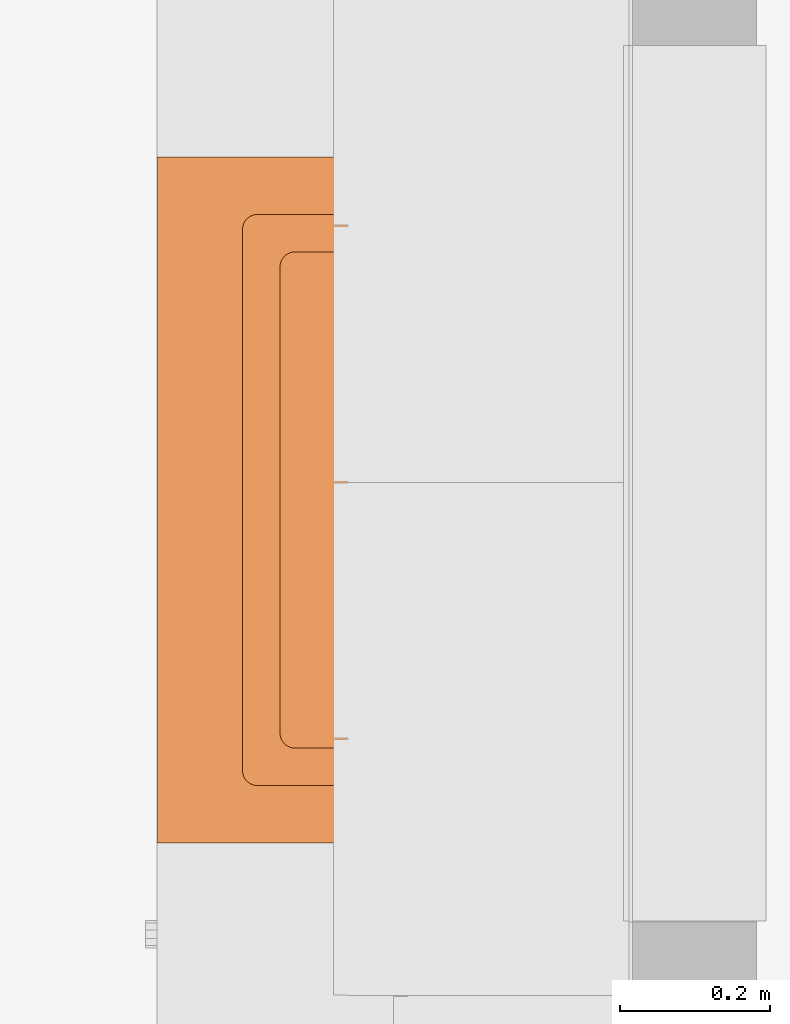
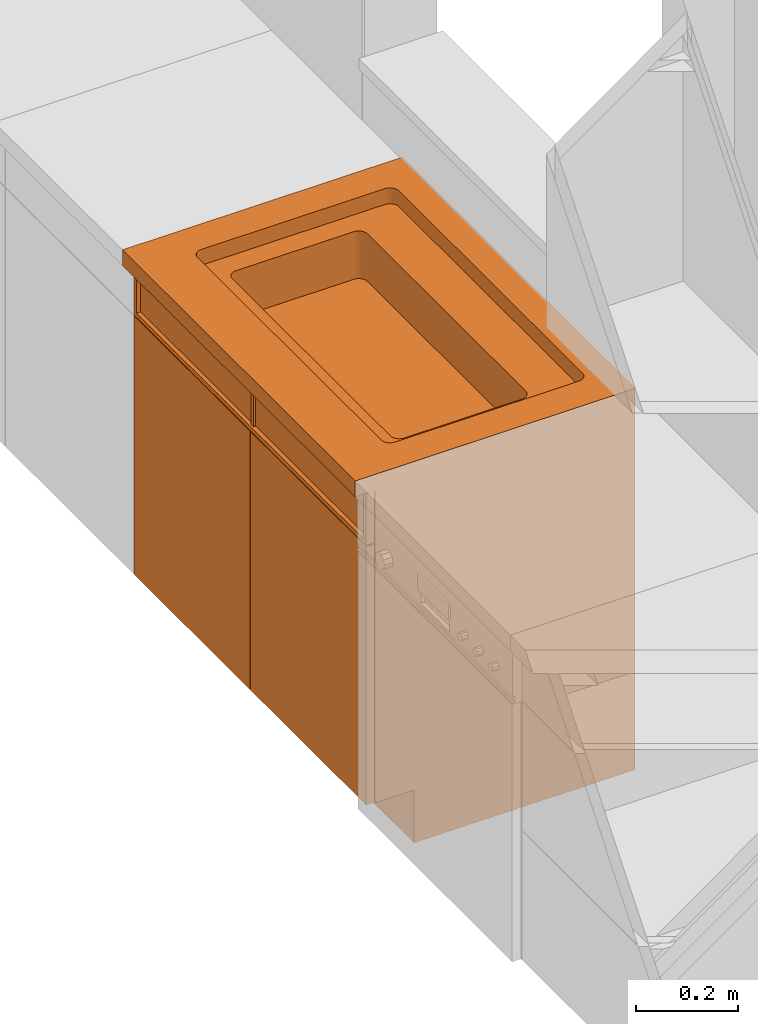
# One storey, part 64 of 77: 1 proxy.
"""IFC2X3 building model written with IfcOpenShell, lengths in inches."""

from ifc_helpers import new_model, entity, si_unit, converted_unit, derived_unit, money_unit, direction, frame, origin_with_axes, place, context, subcontext, project, spatial, open_shell, faceted_brep, surface_model, type_object, element, save


model = new_model("IFC2X3")

# Units and contexts
model_context = context("Model", 3, precision=0.000393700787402, world=origin_with_axes(), true_north=direction((0.0, 1.0)))
body_context = subcontext(model_context, "Body", "Model", "MODEL_VIEW")
ifc_project = project(units=[converted_unit("LENGTHUNIT", "INCH", entity("IfcPositiveLengthMeasure", 0.0254), si_unit("LENGTHUNIT", "METRE"), dimensions=[1, 0, 0, 0, 0, 0, 0]), converted_unit("AREAUNIT", "SQUARE_FOOT", entity("IfcPositiveLengthMeasure", 0.09290304), si_unit("AREAUNIT", "SQUARE_METRE"), dimensions=[2, 0, 0, 0, 0, 0, 0]), si_unit("PLANEANGLEUNIT", "RADIAN"), si_unit("SOLIDANGLEUNIT", "STERADIAN"), money_unit("USD"), converted_unit("TIMEUNIT", "Year", entity("IfcTimeMeasure", 31556926.0), si_unit("TIMEUNIT", "SECOND"), dimensions=[0, 0, 1, 0, 0, 0, 0]), si_unit("MASSUNIT", "GRAM", prefix="KILO"), si_unit("THERMODYNAMICTEMPERATUREUNIT", "DEGREE_CELSIUS"), si_unit("LUMINOUSINTENSITYUNIT", "LUMEN"), si_unit("ENERGYUNIT", "JOULE", prefix="MEGA"), derived_unit("THERMALCONDUCTANCEUNIT", [(si_unit("POWERUNIT", "WATT"), 1), (si_unit("LENGTHUNIT", "METRE"), -1), (si_unit("THERMODYNAMICTEMPERATUREUNIT", "KELVIN"), -1)]), derived_unit("SPECIFICHEATCAPACITYUNIT", [(si_unit("ENERGYUNIT", "JOULE"), 1), (si_unit("MASSUNIT", "GRAM", prefix="KILO"), -1), (si_unit("THERMODYNAMICTEMPERATUREUNIT", "KELVIN"), -1)]), derived_unit("MASSDENSITYUNIT", [(si_unit("MASSUNIT", "GRAM", prefix="KILO"), 1), (si_unit("VOLUMEUNIT", "CUBIC_METRE"), -1)])], contexts=[model_context])

# Site, building, storey
site_placement = place(None, origin_with_axes())
site = spatial("IfcSite", under=ifc_project, at=site_placement, Name="Site", CompositionType="ELEMENT")
building_placement = place(site_placement, origin_with_axes())
building = spatial("IfcBuilding", under=site, at=building_placement, Name="Building", CompositionType="ELEMENT")
storey_placement = place(building_placement, frame((0.0, 0.0, 127.952755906), z_axis=(0.0, 0.0, 1.0), x_axis=(1.0, 0.0, 0.0)))
storey = spatial("IfcBuildingStorey", under=building, at=storey_placement, Name="Second Floor", CompositionType="ELEMENT", Elevation=127.953)

# Proxy
building_element_proxy_type = type_object("IfcBuildingElementProxyType", Name="Base Cabinet Block 25", PredefinedType="NOTDEFINED")
proxy_placement = place(storey_placement, frame((637.474370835, 290.025282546, 0.0), z_axis=(0.0, 0.0, 1.0), x_axis=(0.0, -1.0, 0.0)))
element("IfcBuildingElementProxy", 1, at=proxy_placement, inside=storey, type_object=building_element_proxy_type, Name="OBJ-16", context=body_context, shape_type="SurfaceModel", body=[
    surface_model("IfcShellBasedSurfaceModel", [(5.76771653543, -18.5255905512, 30.0236220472), (30.2559055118, -18.5255905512, 30.0236220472), (30.2559055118, -18.5255905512, 34.3267716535), (5.76771653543, -18.5255905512, 34.3267716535), (5.63098568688, -18.513628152, 30.0236220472), (5.49840933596, -18.4781044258, 30.0236220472), (5.37401574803, -18.4200987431, 30.0236220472), (5.2615845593, -18.3413735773, 30.0236220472), (5.16453193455, -18.2443209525, 30.0236220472), (5.08580676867, -18.1318897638, 30.0236220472), (5.027801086, -18.0074961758, 30.0236220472), (4.99227735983, -17.8749198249, 30.0236220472), (4.98031496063, -17.7381889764, 30.0236220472), (4.98031496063, -7.21850393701, 30.0236220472), (4.99227735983, -7.08177308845, 30.0236220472), (5.027801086, -6.94919673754, 30.0236220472), (5.08580676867, -6.82480314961, 30.0236220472), (5.16453193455, -6.71237196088, 30.0236220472), (5.2615845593, -6.61531933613, 30.0236220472), (5.37401574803, -6.53659417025, 30.0236220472), (5.49840933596, -6.47858848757, 30.0236220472), (5.63098568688, -6.44306476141, 30.0236220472), (5.76771653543, -6.4311023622, 30.0236220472), (30.2559055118, -6.4311023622, 30.0236220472), (30.3926363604, -6.44306476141, 30.0236220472), (30.5252127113, -6.47858848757, 30.0236220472), (30.6496062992, -6.53659417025, 30.0236220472), (30.7620374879, -6.61531933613, 30.0236220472), (30.8590901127, -6.71237196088, 30.0236220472), (30.9378152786, -6.82480314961, 30.0236220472), (30.9958209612, -6.94919673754, 30.0236220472), (31.0313446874, -7.08177308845, 30.0236220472), (31.0433070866, -7.21850393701, 30.0236220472), (31.0433070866, -17.7381889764, 30.0236220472), (31.0313446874, -17.8749198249, 30.0236220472), (30.9958209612, -18.0074961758, 30.0236220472), (30.9378152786, -18.1318897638, 30.0236220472), (30.8590901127, -18.2443209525, 30.0236220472), (30.7620374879, -18.3413735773, 30.0236220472), (30.6496062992, -18.4200987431, 30.0236220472), (30.5252127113, -18.4781044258, 30.0236220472), (30.3926363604, -18.513628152, 30.0236220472), (30.3926363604, -18.513628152, 34.3267716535), (5.63098568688, -18.513628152, 34.3267716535), (5.49840933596, -18.4781044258, 34.3267716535), (5.37401574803, -18.4200987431, 34.3267716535), (5.2615845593, -18.3413735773, 34.3267716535), (5.16453193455, -18.2443209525, 34.3267716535), (5.08580676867, -18.1318897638, 34.3267716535), (5.027801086, -18.0074961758, 34.3267716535), (4.99227735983, -17.8749198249, 34.3267716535), (4.98031496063, -17.7381889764, 34.3267716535), (4.98031496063, -7.21850393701, 34.3267716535), (4.99227735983, -7.08177308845, 34.3267716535), (5.027801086, -6.94919673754, 34.3267716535), (5.08580676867, -6.82480314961, 34.3267716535), (5.16453193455, -6.71237196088, 34.3267716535), (5.2615845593, -6.61531933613, 34.3267716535), (5.37401574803, -6.53659417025, 34.3267716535), (5.49840933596, -6.47858848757, 34.3267716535), (5.63098568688, -6.44306476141, 34.3267716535), (5.76771653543, -6.4311023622, 34.3267716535), (30.2559055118, -6.4311023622, 34.3267716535), (30.3926363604, -6.44306476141, 34.3267716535), (30.5252127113, -6.47858848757, 34.3267716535), (30.6496062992, -6.53659417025, 34.3267716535), (30.7620374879, -6.61531933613, 34.3267716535), (30.8590901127, -6.71237196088, 34.3267716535), (30.9378152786, -6.82480314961, 34.3267716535), (30.9958209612, -6.94919673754, 34.3267716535), (31.0313446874, -7.08177308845, 34.3267716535), (31.0433070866, -7.21850393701, 34.3267716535), (31.0433070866, -17.7381889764, 34.3267716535), (31.0313446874, -17.8749198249, 34.3267716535), (30.9958209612, -18.0074961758, 34.3267716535), (30.9378152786, -18.1318897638, 34.3267716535), (30.8590901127, -18.2443209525, 34.3267716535), (30.7620374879, -18.3413735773, 34.3267716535), (30.6496062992, -18.4200987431, 34.3267716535), (30.5252127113, -18.4781044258, 34.3267716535)], [open_shell([[[0, 1, 2, 3]], [[0, 4, 5, 6, 7, 8, 9, 10, 11, 12, 13, 14, 15, 16, 17, 18, 19, 20, 21, 22, 23, 24, 25, 26, 27, 28, 29, 30, 31, 32, 33, 34, 35, 36, 37, 38, 39, 40, 41, 1]], [[1, 41, 42, 2]], [[4, 0, 3, 43]], [[5, 4, 43, 44]], [[6, 5, 44, 45]], [[7, 6, 45, 46]], [[8, 7, 46, 47]], [[9, 8, 47, 48]], [[10, 9, 48, 49]], [[11, 10, 49, 50]], [[12, 11, 50, 51]], [[13, 12, 51, 52]], [[14, 13, 52, 53]], [[15, 14, 53, 54]], [[16, 15, 54, 55]], [[17, 16, 55, 56]], [[18, 17, 56, 57]], [[19, 18, 57, 58]], [[20, 19, 58, 59]], [[21, 20, 59, 60]], [[22, 21, 60, 61]], [[23, 22, 61, 62]], [[24, 23, 62, 63]], [[25, 24, 63, 64]], [[26, 25, 64, 65]], [[27, 26, 65, 66]], [[28, 27, 66, 67]], [[29, 28, 67, 68]], [[30, 29, 68, 69]], [[31, 30, 69, 70]], [[32, 31, 70, 71]], [[33, 32, 71, 72]], [[34, 33, 72, 73]], [[35, 34, 73, 74]], [[36, 35, 74, 75]], [[37, 36, 75, 76]], [[38, 37, 76, 77]], [[39, 38, 77, 78]], [[40, 39, 78, 79]], [[41, 40, 79, 42]]])]),
    faceted_brep([(3.79921259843, -20.4940944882, 34.3267716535), (32.2244094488, -20.4940944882, 34.3267716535), (32.2244094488, -20.4940944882, 34.5236220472), (3.79921259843, -20.4940944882, 34.5236220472), (3.66248174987, -20.482132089, 34.3267716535), (3.52990539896, -20.4466083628, 34.3267716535), (3.40551181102, -20.3886026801, 34.3267716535), (3.29308062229, -20.3098775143, 34.3267716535), (3.19602799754, -20.2128248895, 34.3267716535), (3.11730283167, -20.1003937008, 34.3267716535), (3.05929714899, -19.9760001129, 34.3267716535), (3.02377342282, -19.8434237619, 34.3267716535), (3.01181102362, -19.7066929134, 34.3267716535), (3.01181102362, -3.28149606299, 34.3267716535), (3.02377342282, -3.14476521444, 34.3267716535), (3.05929714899, -3.01218886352, 34.3267716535), (3.11730283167, -2.88779527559, 34.3267716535), (3.19602799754, -2.77536408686, 34.3267716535), (3.29308062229, -2.67831146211, 34.3267716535), (3.40551181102, -2.59958629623, 34.3267716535), (3.52990539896, -2.54158061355, 34.3267716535), (3.66248174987, -2.50605688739, 34.3267716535), (3.79921259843, -2.49409448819, 34.3267716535), (32.2244094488, -2.49409448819, 34.3267716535), (32.3611402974, -2.50605688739, 34.3267716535), (32.4937166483, -2.54158061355, 34.3267716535), (32.6181102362, -2.59958629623, 34.3267716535), (32.7305414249, -2.67831146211, 34.3267716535), (32.8275940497, -2.77536408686, 34.3267716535), (32.9063192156, -2.88779527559, 34.3267716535), (32.9643248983, -3.01218886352, 34.3267716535), (32.9998486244, -3.14476521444, 34.3267716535), (33.0118110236, -3.28149606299, 34.3267716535), (33.0118110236, -19.7066929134, 34.3267716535), (32.9998486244, -19.8434237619, 34.3267716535), (32.9643248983, -19.9760001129, 34.3267716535), (32.9063192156, -20.1003937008, 34.3267716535), (32.8275940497, -20.2128248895, 34.3267716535), (32.7305414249, -20.3098775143, 34.3267716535), (32.6181102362, -20.3886026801, 34.3267716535), (32.4937166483, -20.4466083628, 34.3267716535), (32.3611402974, -20.482132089, 34.3267716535), (5.76771653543, -18.5255905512, 34.3267716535), (30.2559055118, -18.5255905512, 34.3267716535), (30.3926363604, -18.513628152, 34.3267716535), (30.5252127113, -18.4781044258, 34.3267716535), (30.6496062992, -18.4200987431, 34.3267716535), (30.7620374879, -18.3413735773, 34.3267716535), (30.8590901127, -18.2443209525, 34.3267716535), (30.9378152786, -18.1318897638, 34.3267716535), (30.9958209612, -18.0074961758, 34.3267716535), (31.0313446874, -17.8749198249, 34.3267716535), (31.0433070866, -17.7381889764, 34.3267716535), (31.0433070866, -7.21850393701, 34.3267716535), (31.0313446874, -7.08177308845, 34.3267716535), (30.9958209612, -6.94919673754, 34.3267716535), (30.9378152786, -6.82480314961, 34.3267716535), (30.8590901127, -6.71237196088, 34.3267716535), (30.7620374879, -6.61531933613, 34.3267716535), (30.6496062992, -6.53659417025, 34.3267716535), (30.5252127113, -6.47858848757, 34.3267716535), (30.3926363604, -6.44306476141, 34.3267716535), (30.2559055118, -6.4311023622, 34.3267716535), (5.76771653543, -6.4311023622, 34.3267716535), (5.63098568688, -6.44306476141, 34.3267716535), (5.49840933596, -6.47858848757, 34.3267716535), (5.37401574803, -6.53659417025, 34.3267716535), (5.2615845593, -6.61531933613, 34.3267716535), (5.16453193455, -6.71237196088, 34.3267716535), (5.08580676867, -6.82480314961, 34.3267716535), (5.027801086, -6.94919673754, 34.3267716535), (4.99227735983, -7.08177308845, 34.3267716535), (4.98031496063, -7.21850393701, 34.3267716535), (4.98031496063, -17.7381889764, 34.3267716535), (4.99227735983, -17.8749198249, 34.3267716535), (5.027801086, -18.0074961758, 34.3267716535), (5.08580676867, -18.1318897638, 34.3267716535), (5.16453193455, -18.2443209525, 34.3267716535), (5.2615845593, -18.3413735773, 34.3267716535), (5.37401574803, -18.4200987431, 34.3267716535), (5.49840933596, -18.4781044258, 34.3267716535), (5.63098568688, -18.513628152, 34.3267716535), (32.3611402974, -20.482132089, 34.5236220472), (32.4937166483, -20.4466083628, 34.5236220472), (32.6181102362, -20.3886026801, 34.5236220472), (32.7305414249, -20.3098775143, 34.5236220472), (32.8275940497, -20.2128248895, 34.5236220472), (32.9063192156, -20.1003937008, 34.5236220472), (32.9643248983, -19.9760001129, 34.5236220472), (32.9998486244, -19.8434237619, 34.5236220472), (33.0118110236, -19.7066929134, 34.5236220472), (33.0118110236, -3.28149606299, 34.5236220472), (32.9998486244, -3.14476521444, 34.5236220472), (32.9643248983, -3.01218886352, 34.5236220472), (32.9063192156, -2.88779527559, 34.5236220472), (32.8275940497, -2.77536408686, 34.5236220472), (32.7305414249, -2.67831146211, 34.5236220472), (32.6181102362, -2.59958629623, 34.5236220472), (32.4937166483, -2.54158061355, 34.5236220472), (32.3611402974, -2.50605688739, 34.5236220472), (32.2244094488, -2.49409448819, 34.5236220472), (3.79921259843, -2.49409448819, 34.5236220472), (3.66248174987, -2.50605688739, 34.5236220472), (3.52990539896, -2.54158061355, 34.5236220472), (3.40551181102, -2.59958629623, 34.5236220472), (3.29308062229, -2.67831146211, 34.5236220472), (3.19602799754, -2.77536408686, 34.5236220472), (3.11730283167, -2.88779527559, 34.5236220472), (3.05929714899, -3.01218886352, 34.5236220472), (3.02377342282, -3.14476521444, 34.5236220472), (3.01181102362, -3.28149606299, 34.5236220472), (3.01181102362, -19.7066929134, 34.5236220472), (3.02377342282, -19.8434237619, 34.5236220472), (3.05929714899, -19.9760001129, 34.5236220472), (3.11730283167, -20.1003937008, 34.5236220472), (3.19602799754, -20.2128248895, 34.5236220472), (3.29308062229, -20.3098775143, 34.5236220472), (3.40551181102, -20.3886026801, 34.5236220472), (3.52990539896, -20.4466083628, 34.5236220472), (3.66248174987, -20.482132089, 34.5236220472), (5.76771653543, -18.5255905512, 34.5236220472), (5.63098568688, -18.513628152, 34.5236220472), (5.49840933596, -18.4781044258, 34.5236220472), (5.37401574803, -18.4200987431, 34.5236220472), (5.2615845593, -18.3413735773, 34.5236220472), (5.16453193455, -18.2443209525, 34.5236220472), (5.08580676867, -18.1318897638, 34.5236220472), (5.027801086, -18.0074961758, 34.5236220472), (4.99227735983, -17.8749198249, 34.5236220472), (4.98031496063, -17.7381889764, 34.5236220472), (4.98031496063, -7.21850393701, 34.5236220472), (4.99227735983, -7.08177308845, 34.5236220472), (5.027801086, -6.94919673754, 34.5236220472), (5.08580676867, -6.82480314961, 34.5236220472), (5.16453193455, -6.71237196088, 34.5236220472), (5.2615845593, -6.61531933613, 34.5236220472), (5.37401574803, -6.53659417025, 34.5236220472), (5.49840933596, -6.47858848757, 34.5236220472), (5.63098568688, -6.44306476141, 34.5236220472), (5.76771653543, -6.4311023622, 34.5236220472), (30.2559055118, -6.4311023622, 34.5236220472), (30.3926363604, -6.44306476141, 34.5236220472), (30.5252127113, -6.47858848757, 34.5236220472), (30.6496062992, -6.53659417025, 34.5236220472), (30.7620374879, -6.61531933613, 34.5236220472), (30.8590901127, -6.71237196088, 34.5236220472), (30.9378152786, -6.82480314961, 34.5236220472), (30.9958209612, -6.94919673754, 34.5236220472), (31.0313446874, -7.08177308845, 34.5236220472), (31.0433070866, -7.21850393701, 34.5236220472), (31.0433070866, -17.7381889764, 34.5236220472), (31.0313446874, -17.8749198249, 34.5236220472), (30.9958209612, -18.0074961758, 34.5236220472), (30.9378152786, -18.1318897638, 34.5236220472), (30.8590901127, -18.2443209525, 34.5236220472), (30.7620374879, -18.3413735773, 34.5236220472), (30.6496062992, -18.4200987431, 34.5236220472), (30.5252127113, -18.4781044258, 34.5236220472), (30.3926363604, -18.513628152, 34.5236220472), (30.2559055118, -18.5255905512, 34.5236220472)], [[[0, 1, 2, 3]], [[0, 4, 5, 6, 7, 8, 9, 10, 11, 12, 13, 14, 15, 16, 17, 18, 19, 20, 21, 22, 23, 24, 25, 26, 27, 28, 29, 30, 31, 32, 33, 34, 35, 36, 37, 38, 39, 40, 41, 1], [42, 43, 44, 45, 46, 47, 48, 49, 50, 51, 52, 53, 54, 55, 56, 57, 58, 59, 60, 61, 62, 63, 64, 65, 66, 67, 68, 69, 70, 71, 72, 73, 74, 75, 76, 77, 78, 79, 80, 81]], [[1, 41, 82, 2]], [[3, 2, 82, 83, 84, 85, 86, 87, 88, 89, 90, 91, 92, 93, 94, 95, 96, 97, 98, 99, 100, 101, 102, 103, 104, 105, 106, 107, 108, 109, 110, 111, 112, 113, 114, 115, 116, 117, 118, 119], [120, 121, 122, 123, 124, 125, 126, 127, 128, 129, 130, 131, 132, 133, 134, 135, 136, 137, 138, 139, 140, 141, 142, 143, 144, 145, 146, 147, 148, 149, 150, 151, 152, 153, 154, 155, 156, 157, 158, 159]], [[4, 0, 3, 119]], [[5, 4, 119, 118]], [[6, 5, 118, 117]], [[7, 6, 117, 116]], [[8, 7, 116, 115]], [[9, 8, 115, 114]], [[10, 9, 114, 113]], [[11, 10, 113, 112]], [[12, 11, 112, 111]], [[13, 12, 111, 110]], [[14, 13, 110, 109]], [[15, 14, 109, 108]], [[16, 15, 108, 107]], [[17, 16, 107, 106]], [[18, 17, 106, 105]], [[19, 18, 105, 104]], [[20, 19, 104, 103]], [[21, 20, 103, 102]], [[22, 21, 102, 101]], [[23, 22, 101, 100]], [[24, 23, 100, 99]], [[25, 24, 99, 98]], [[26, 25, 98, 97]], [[27, 26, 97, 96]], [[28, 27, 96, 95]], [[29, 28, 95, 94]], [[30, 29, 94, 93]], [[31, 30, 93, 92]], [[32, 31, 92, 91]], [[33, 32, 91, 90]], [[34, 33, 90, 89]], [[35, 34, 89, 88]], [[36, 35, 88, 87]], [[37, 36, 87, 86]], [[38, 37, 86, 85]], [[39, 38, 85, 84]], [[40, 39, 84, 83]], [[41, 40, 83, 82]], [[43, 42, 120, 159]], [[44, 43, 159, 158]], [[45, 44, 158, 157]], [[46, 45, 157, 156]], [[47, 46, 156, 155]], [[48, 47, 155, 154]], [[49, 48, 154, 153]], [[50, 49, 153, 152]], [[51, 50, 152, 151]], [[52, 51, 151, 150]], [[53, 52, 150, 149]], [[54, 53, 149, 148]], [[55, 54, 148, 147]], [[56, 55, 147, 146]], [[57, 56, 146, 145]], [[58, 57, 145, 144]], [[59, 58, 144, 143]], [[60, 59, 143, 142]], [[61, 60, 142, 141]], [[62, 61, 141, 140]], [[63, 62, 140, 139]], [[64, 63, 139, 138]], [[65, 64, 138, 137]], [[66, 65, 137, 136]], [[67, 66, 136, 135]], [[68, 67, 135, 134]], [[69, 68, 134, 133]], [[70, 69, 133, 132]], [[71, 70, 132, 131]], [[72, 71, 131, 130]], [[73, 72, 130, 129]], [[74, 73, 129, 128]], [[75, 74, 128, 127]], [[76, 75, 127, 126]], [[77, 76, 126, 125]], [[78, 77, 125, 124]], [[79, 78, 124, 123]], [[80, 79, 123, 122]], [[81, 80, 122, 121]], [[42, 81, 121, 120]]]),
    faceted_brep([(0.0, 0.0, 34.5236220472), (36.0236220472, 0.0, 34.5236220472), (36.0236220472, -25.0, 34.5236220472), (0.0, -25.0, 34.5236220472), (32.9998486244, -19.8434237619, 34.5236220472), (33.0118110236, -19.7066929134, 34.5236220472), (33.0118110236, -3.28149606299, 34.5236220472), (32.9998486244, -3.14476521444, 34.5236220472), (32.9643248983, -3.01218886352, 34.5236220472), (32.9063192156, -2.88779527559, 34.5236220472), (32.8275940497, -2.77536408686, 34.5236220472), (32.7305414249, -2.67831146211, 34.5236220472), (32.6181102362, -2.59958629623, 34.5236220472), (32.4937166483, -2.54158061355, 34.5236220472), (32.3611402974, -2.50605688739, 34.5236220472), (32.2244094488, -2.49409448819, 34.5236220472), (3.79921259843, -2.49409448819, 34.5236220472), (3.66248174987, -2.50605688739, 34.5236220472), (3.52990539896, -2.54158061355, 34.5236220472), (3.40551181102, -2.59958629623, 34.5236220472), (3.29308062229, -2.67831146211, 34.5236220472), (3.19602799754, -2.77536408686, 34.5236220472), (3.11730283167, -2.88779527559, 34.5236220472), (3.05929714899, -3.01218886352, 34.5236220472), (3.02377342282, -3.14476521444, 34.5236220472), (3.01181102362, -3.28149606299, 34.5236220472), (3.01181102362, -19.7066929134, 34.5236220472), (3.02377342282, -19.8434237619, 34.5236220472), (3.05929714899, -19.9760001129, 34.5236220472), (3.11730283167, -20.1003937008, 34.5236220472), (3.19602799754, -20.2128248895, 34.5236220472), (3.29308062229, -20.3098775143, 34.5236220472), (3.40551181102, -20.3886026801, 34.5236220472), (3.52990539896, -20.4466083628, 34.5236220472), (3.66248174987, -20.482132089, 34.5236220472), (3.79921259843, -20.4940944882, 34.5236220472), (32.2244094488, -20.4940944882, 34.5236220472), (32.3611402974, -20.482132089, 34.5236220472), (32.4937166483, -20.4466083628, 34.5236220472), (32.6181102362, -20.3886026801, 34.5236220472), (32.7305414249, -20.3098775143, 34.5236220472), (32.8275940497, -20.2128248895, 34.5236220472), (32.9063192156, -20.1003937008, 34.5236220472), (32.9643248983, -19.9760001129, 34.5236220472), (0.0, 0.0, 36.0236220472), (36.0236220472, 0.0, 36.0236220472), (36.0236220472, -25.0, 36.0236220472), (0.0, -25.0, 36.0236220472), (32.9998486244, -19.8434237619, 36.0236220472), (33.0118110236, -19.7066929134, 36.0236220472), (33.0118110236, -3.28149606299, 36.0236220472), (32.9998486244, -3.14476521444, 36.0236220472), (32.9643248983, -3.01218886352, 36.0236220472), (32.9063192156, -2.88779527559, 36.0236220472), (32.8275940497, -2.77536408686, 36.0236220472), (32.7305414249, -2.67831146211, 36.0236220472), (32.6181102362, -2.59958629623, 36.0236220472), (32.4937166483, -2.54158061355, 36.0236220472), (32.3611402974, -2.50605688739, 36.0236220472), (32.2244094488, -2.49409448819, 36.0236220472), (3.79921259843, -2.49409448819, 36.0236220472), (3.66248174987, -2.50605688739, 36.0236220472), (3.52990539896, -2.54158061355, 36.0236220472), (3.40551181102, -2.59958629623, 36.0236220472), (3.29308062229, -2.67831146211, 36.0236220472), (3.19602799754, -2.77536408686, 36.0236220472), (3.11730283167, -2.88779527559, 36.0236220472), (3.05929714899, -3.01218886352, 36.0236220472), (3.02377342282, -3.14476521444, 36.0236220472), (3.01181102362, -3.28149606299, 36.0236220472), (3.01181102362, -19.7066929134, 36.0236220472), (3.02377342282, -19.8434237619, 36.0236220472), (3.05929714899, -19.9760001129, 36.0236220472), (3.11730283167, -20.1003937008, 36.0236220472), (3.19602799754, -20.2128248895, 36.0236220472), (3.29308062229, -20.3098775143, 36.0236220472), (3.40551181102, -20.3886026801, 36.0236220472), (3.52990539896, -20.4466083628, 36.0236220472), (3.66248174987, -20.482132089, 36.0236220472), (3.79921259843, -20.4940944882, 36.0236220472), (32.2244094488, -20.4940944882, 36.0236220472), (32.3611402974, -20.482132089, 36.0236220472), (32.4937166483, -20.4466083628, 36.0236220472), (32.6181102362, -20.3886026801, 36.0236220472), (32.7305414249, -20.3098775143, 36.0236220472), (32.8275940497, -20.2128248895, 36.0236220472), (32.9063192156, -20.1003937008, 36.0236220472), (32.9643248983, -19.9760001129, 36.0236220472)], [[[0, 1, 2, 3], [4, 5, 6, 7, 8, 9, 10, 11, 12, 13, 14, 15, 16, 17, 18, 19, 20, 21, 22, 23, 24, 25, 26, 27, 28, 29, 30, 31, 32, 33, 34, 35, 36, 37, 38, 39, 40, 41, 42, 43]], [[0, 44, 45, 1]], [[1, 45, 46, 2]], [[2, 46, 47, 3]], [[3, 47, 44, 0]], [[48, 49, 5, 4]], [[49, 50, 6, 5]], [[50, 51, 7, 6]], [[51, 52, 8, 7]], [[52, 53, 9, 8]], [[53, 54, 10, 9]], [[54, 55, 11, 10]], [[55, 56, 12, 11]], [[56, 57, 13, 12]], [[57, 58, 14, 13]], [[58, 59, 15, 14]], [[59, 60, 16, 15]], [[60, 61, 17, 16]], [[61, 62, 18, 17]], [[62, 63, 19, 18]], [[63, 64, 20, 19]], [[64, 65, 21, 20]], [[65, 66, 22, 21]], [[66, 67, 23, 22]], [[67, 68, 24, 23]], [[68, 69, 25, 24]], [[69, 70, 26, 25]], [[70, 71, 27, 26]], [[71, 72, 28, 27]], [[72, 73, 29, 28]], [[73, 74, 30, 29]], [[74, 75, 31, 30]], [[75, 76, 32, 31]], [[76, 77, 33, 32]], [[77, 78, 34, 33]], [[78, 79, 35, 34]], [[79, 80, 36, 35]], [[80, 81, 37, 36]], [[81, 82, 38, 37]], [[82, 83, 39, 38]], [[83, 84, 40, 39]], [[84, 85, 41, 40]], [[85, 86, 42, 41]], [[86, 87, 43, 42]], [[87, 48, 4, 43]], [[46, 45, 44, 47], [52, 51, 50, 49, 48, 87, 86, 85, 84, 83, 82, 81, 80, 79, 78, 77, 76, 75, 74, 73, 72, 71, 70, 69, 68, 67, 66, 65, 64, 63, 62, 61, 60, 59, 58, 57, 56, 55, 54, 53]]]),
    faceted_brep([(0.75, -23.25, 29.125), (35.2736220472, -23.25, 29.125), (35.2736220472, -23.25, 29.875), (0.75, -23.25, 29.875), (0.75, -0.75, 29.125), (35.2736220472, -0.75, 29.125), (35.2736220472, -0.75, 29.875), (0.75, -0.75, 29.875)], [[[0, 1, 2, 3]], [[0, 4, 5, 1]], [[1, 5, 6, 2]], [[3, 2, 6, 7]], [[4, 0, 3, 7]], [[5, 4, 7, 6]]]),
    faceted_brep([(0.0393700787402, -23.25, 5.03937007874), (17.9724409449, -23.25, 5.03937007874), (17.9724409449, -24.0, 5.03937007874), (0.0393700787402, -24.0, 5.03937007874), (0.0393700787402, -23.25, 29.4606299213), (17.9724409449, -23.25, 29.4606299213), (17.9724409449, -24.0, 29.4606299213), (0.0393700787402, -24.0, 29.4606299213)], [[[0, 1, 2, 3]], [[0, 4, 5, 1]], [[1, 5, 6, 2]], [[3, 2, 6, 7]], [[4, 0, 3, 7]], [[5, 4, 7, 6]]]),
    faceted_brep([(35.9842519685, -23.25, 5.03937007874), (35.9842519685, -24.0, 5.03937007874), (18.0511811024, -24.0, 5.03937007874), (18.0511811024, -23.25, 5.03937007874), (35.9842519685, -23.25, 29.4606299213), (35.9842519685, -24.0, 29.4606299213), (18.0511811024, -24.0, 29.4606299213), (18.0511811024, -23.25, 29.4606299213)], [[[0, 1, 2, 3]], [[4, 5, 1, 0]], [[1, 5, 6, 2]], [[3, 2, 6, 7]], [[0, 3, 7, 4]], [[7, 6, 5, 4]]]),
    faceted_brep([(0.433070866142, -23.25, 29.5393700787), (0.0393700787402, -23.25, 29.5393700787), (0.0393700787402, -23.25, 34.4842519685), (0.433070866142, -23.25, 34.4842519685), (0.433070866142, -24.0, 29.5393700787), (0.0393700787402, -24.0, 29.5393700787), (0.0393700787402, -24.0, 34.4842519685), (0.433070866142, -24.0, 34.4842519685)], [[[0, 1, 2, 3]], [[1, 0, 4, 5]], [[2, 1, 5, 6]], [[3, 2, 6, 7]], [[0, 3, 7, 4]], [[5, 4, 7, 6]]]),
    faceted_brep([(35.5905511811, -23.25, 29.5393700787), (35.5905511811, -23.25, 34.4842519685), (35.9842519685, -23.25, 34.4842519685), (35.9842519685, -23.25, 29.5393700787), (35.5905511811, -24.0, 29.5393700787), (35.5905511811, -24.0, 34.4842519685), (35.9842519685, -24.0, 34.4842519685), (35.9842519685, -24.0, 29.5393700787)], [[[0, 1, 2, 3]], [[0, 4, 5, 1]], [[1, 5, 6, 2]], [[2, 6, 7, 3]], [[3, 7, 4, 0]], [[7, 6, 5, 4]]]),
    faceted_brep([(35.5905511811, -24.0, 29.9330708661), (35.5905511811, -23.25, 29.9330708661), (0.433070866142, -23.25, 29.9330708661), (0.433070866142, -24.0, 29.9330708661), (35.5905511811, -23.25, 29.5393700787), (35.5905511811, -24.0, 29.5393700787), (0.433070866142, -23.25, 29.5393700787), (0.433070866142, -24.0, 29.5393700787)], [[[0, 1, 2, 3]], [[4, 1, 0, 5]], [[1, 4, 6, 2]], [[2, 6, 7, 3]], [[5, 0, 3, 7]], [[4, 5, 7, 6]]]),
    faceted_brep([(35.5905511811, -24.0, 34.4842519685), (35.5905511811, -23.25, 34.4842519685), (0.433070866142, -23.25, 34.4842519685), (0.433070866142, -24.0, 34.4842519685), (35.5905511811, -23.25, 34.0905511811), (35.5905511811, -24.0, 34.0905511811), (0.433070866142, -23.25, 34.0905511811), (0.433070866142, -24.0, 34.0905511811)], [[[0, 1, 2, 3]], [[4, 1, 0, 5]], [[1, 4, 6, 2]], [[2, 6, 7, 3]], [[5, 0, 3, 7]], [[4, 5, 7, 6]]]),
    faceted_brep([(18.2086614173, -23.625, 29.9330708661), (17.8149606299, -23.625, 29.9330708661), (17.8149606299, -23.625, 34.0905511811), (18.2086614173, -23.625, 34.0905511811), (18.2086614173, -23.8125, 29.9330708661), (17.8149606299, -23.8125, 29.9330708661), (17.8149606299, -23.8125, 34.0905511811), (18.2086614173, -23.8125, 34.0905511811)], [[[0, 1, 2, 3]], [[1, 0, 4, 5]], [[2, 1, 5, 6]], [[3, 2, 6, 7]], [[0, 3, 7, 4]], [[5, 4, 7, 6]]]),
    faceted_brep([(35.5905511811, -23.4375, 29.9330708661), (0.433070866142, -23.4375, 29.9330708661), (0.433070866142, -23.4375, 34.0905511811), (35.5905511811, -23.4375, 34.0905511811), (35.5905511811, -23.625, 29.9330708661), (0.433070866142, -23.625, 29.9330708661), (0.433070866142, -23.625, 34.0905511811), (35.5905511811, -23.625, 34.0905511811)], [[[0, 1, 2, 3]], [[1, 0, 4, 5]], [[2, 1, 5, 6]], [[3, 2, 6, 7]], [[0, 3, 7, 4]], [[5, 4, 7, 6]]]),
    faceted_brep([(0.75, -23.25, 5.0), (35.2736220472, -23.25, 5.0), (35.2736220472, -23.25, 5.75), (0.75, -23.25, 5.75), (0.75, 0.0, 5.0), (35.2736220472, 0.0, 5.0), (35.2736220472, 0.0, 5.75), (0.75, 0.0, 5.75)], [[[0, 1, 2, 3]], [[0, 4, 5, 1]], [[1, 5, 6, 2]], [[3, 2, 6, 7]], [[4, 0, 3, 7]], [[5, 4, 7, 6]]]),
    faceted_brep([(0.75, -23.25, 33.7736220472), (0.75, -20.8877952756, 33.7736220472), (35.2736220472, -20.8877952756, 33.7736220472), (35.2736220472, -23.25, 33.7736220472), (0.75, -23.25, 34.5236220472), (0.75, -20.8877952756, 34.5236220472), (35.2736220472, -20.8877952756, 34.5236220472), (35.2736220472, -23.25, 34.5236220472)], [[[0, 1, 2, 3]], [[0, 4, 5, 1]], [[1, 5, 6, 2]], [[3, 2, 6, 7]], [[4, 0, 3, 7]], [[5, 4, 7, 6]]]),
    faceted_brep([(35.2736220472, 0.0, 33.7736220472), (35.2736220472, -2.36220472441, 33.7736220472), (0.75, -2.36220472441, 33.7736220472), (0.75, 0.0, 33.7736220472), (35.2736220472, 0.0, 34.5236220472), (35.2736220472, -2.36220472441, 34.5236220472), (0.75, -2.36220472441, 34.5236220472), (0.75, 0.0, 34.5236220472)], [[[0, 1, 2, 3]], [[0, 4, 5, 1]], [[1, 5, 6, 2]], [[3, 2, 6, 7]], [[4, 0, 3, 7]], [[5, 4, 7, 6]]]),
    faceted_brep([(0.0, 0.0, 5.0), (0.0, -23.25, 5.0), (0.0, -23.25, 34.5236220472), (0.0, 0.0, 34.5236220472), (0.75, 0.0, 5.0), (0.75, -23.25, 5.0), (0.75, -23.25, 34.5236220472), (0.75, 0.0, 34.5236220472)], [[[0, 1, 2, 3]], [[0, 4, 5, 1]], [[1, 5, 6, 2]], [[3, 2, 6, 7]], [[4, 0, 3, 7]], [[5, 4, 7, 6]]]),
    faceted_brep([(36.0236220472, -23.25, 5.0), (36.0236220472, 0.0, 5.0), (36.0236220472, 0.0, 34.5236220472), (36.0236220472, -23.25, 34.5236220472), (35.2736220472, -23.25, 5.0), (35.2736220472, 0.0, 5.0), (35.2736220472, 0.0, 34.5236220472), (35.2736220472, -23.25, 34.5236220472)], [[[0, 1, 2, 3]], [[0, 4, 5, 1]], [[1, 5, 6, 2]], [[3, 2, 6, 7]], [[4, 0, 3, 7]], [[5, 4, 7, 6]]]),
    faceted_brep([(35.2736220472, -0.375, 5.75), (0.75, -0.375, 5.75), (0.75, -0.375, 33.7736220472), (35.2736220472, -0.375, 33.7736220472), (35.2736220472, -0.75, 5.75), (0.75, -0.75, 5.75), (0.75, -0.75, 33.7736220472), (35.2736220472, -0.75, 33.7736220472)], [[[0, 1, 2, 3]], [[0, 4, 5, 1]], [[1, 5, 6, 2]], [[3, 2, 6, 7]], [[4, 0, 3, 7]], [[5, 4, 7, 6]]]),
    faceted_brep([(0.0, -19.75, 0.0), (36.0236220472, -19.75, 0.0), (36.0236220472, -19.75, 5.0), (0.0, -19.75, 5.0), (0.0, 0.0, 0.0), (36.0236220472, 0.0, 0.0), (36.0236220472, 0.0, 5.0), (0.0, 0.0, 5.0)], [[[0, 1, 2, 3]], [[0, 4, 5, 1]], [[1, 5, 6, 2]], [[3, 2, 6, 7]], [[4, 0, 3, 7]], [[5, 4, 7, 6]]]),
])

save(model, "model.ifc")
